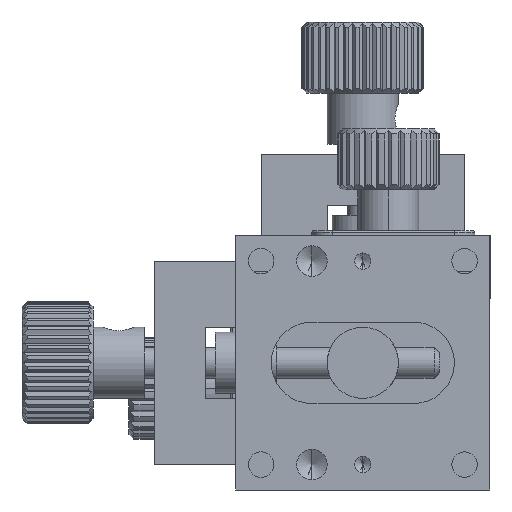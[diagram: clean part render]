
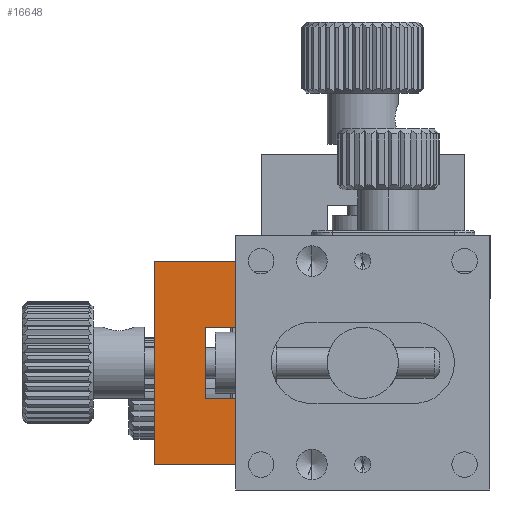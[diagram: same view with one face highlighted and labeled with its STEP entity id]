
A CAD part, front view. The second image highlights one B-rep face of the part: STEP entity #16648.
In plain terms, the highlighted planar face has unit normal (0, -1, 0).
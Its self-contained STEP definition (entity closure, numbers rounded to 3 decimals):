
#49 = DIRECTION ( 'NONE',  ( 0., 0., 1. ) ) ;
#153 = VECTOR ( 'NONE', #15396, 1000. ) ;
#874 = ORIENTED_EDGE ( 'NONE', *, *, #4074, .T. ) ;
#998 = CARTESIAN_POINT ( 'NONE',  ( 8., 0., 10. ) ) ;
#1021 = EDGE_CURVE ( 'NONE', #25637, #8799, #11422, .T. ) ;
#1034 = VECTOR ( 'NONE', #18060, 1000. ) ;
#1173 = CARTESIAN_POINT ( 'NONE',  ( 8., 0., -10. ) ) ;
#1393 = ORIENTED_EDGE ( 'NONE', *, *, #1021, .F. ) ;
#1508 = EDGE_CURVE ( 'NONE', #22659, #6280, #14401, .T. ) ;
#1888 = DIRECTION ( 'NONE',  ( 0., 0., -1. ) ) ;
#2660 = CARTESIAN_POINT ( 'NONE',  ( 5., 0., -3.5 ) ) ;
#2853 = CARTESIAN_POINT ( 'NONE',  ( 0., 0., 10. ) ) ;
#3341 = CARTESIAN_POINT ( 'NONE',  ( 8., 0., -3.5 ) ) ;
#3492 = EDGE_CURVE ( 'NONE', #18824, #6037, #26503, .T. ) ;
#3543 = ORIENTED_EDGE ( 'NONE', *, *, #17232, .T. ) ;
#4074 = EDGE_CURVE ( 'NONE', #25637, #12785, #15256, .T. ) ;
#4228 = PLANE ( 'NONE',  #20069 ) ;
#5916 = DIRECTION ( 'NONE',  ( 1., 0., 0. ) ) ;
#6037 = VERTEX_POINT ( 'NONE', #6780 ) ;
#6087 = CARTESIAN_POINT ( 'NONE',  ( 0., 0., -10. ) ) ;
#6280 = VERTEX_POINT ( 'NONE', #2853 ) ;
#6780 = CARTESIAN_POINT ( 'NONE',  ( 8., 0., -10. ) ) ;
#6943 = CARTESIAN_POINT ( 'NONE',  ( 5., 0., 3.5 ) ) ;
#7645 = VECTOR ( 'NONE', #14422, 1000. ) ;
#7759 = FACE_OUTER_BOUND ( 'NONE', #11943, .T. ) ;
#8061 = LINE ( 'NONE', #14532, #12356 ) ;
#8309 = LINE ( 'NONE', #18431, #7645 ) ;
#8799 = VERTEX_POINT ( 'NONE', #12818 ) ;
#9832 = CARTESIAN_POINT ( 'NONE',  ( 8., 0., 10. ) ) ;
#10032 = VECTOR ( 'NONE', #5916, 1000. ) ;
#10148 = EDGE_CURVE ( 'NONE', #8799, #18824, #26838, .T. ) ;
#11422 = LINE ( 'NONE', #2660, #153 ) ;
#11758 = EDGE_CURVE ( 'NONE', #22659, #12785, #8309, .T. ) ;
#11943 = EDGE_LOOP ( 'NONE', ( #26780, #23114, #1393, #874, #25827, #18104, #3543, #12757 ) ) ;
#12194 = DIRECTION ( 'NONE',  ( 0., 0., -1. ) ) ;
#12289 = VERTEX_POINT ( 'NONE', #6087 ) ;
#12356 = VECTOR ( 'NONE', #1888, 1000. ) ;
#12734 = DIRECTION ( 'NONE',  ( 0., 1., 0. ) ) ;
#12757 = ORIENTED_EDGE ( 'NONE', *, *, #19403, .F. ) ;
#12785 = VERTEX_POINT ( 'NONE', #16461 ) ;
#12818 = CARTESIAN_POINT ( 'NONE',  ( 5., 0., -3.5 ) ) ;
#14401 = LINE ( 'NONE', #9832, #25600 ) ;
#14412 = CARTESIAN_POINT ( 'NONE',  ( 5., 0., -3.5 ) ) ;
#14422 = DIRECTION ( 'NONE',  ( 0., 0., -1. ) ) ;
#14532 = CARTESIAN_POINT ( 'NONE',  ( 0., 0., -10. ) ) ;
#14717 = DIRECTION ( 'NONE',  ( 1., 0., 0. ) ) ;
#15256 = LINE ( 'NONE', #21077, #25813 ) ;
#15396 = DIRECTION ( 'NONE',  ( 0., 0., -1. ) ) ;
#16461 = CARTESIAN_POINT ( 'NONE',  ( 8., 0., 3.5 ) ) ;
#16648 = ADVANCED_FACE ( 'NONE', ( #7759 ), #4228, .F. ) ;
#17232 = EDGE_CURVE ( 'NONE', #6280, #12289, #8061, .T. ) ;
#18060 = DIRECTION ( 'NONE',  ( -1., 0., 0. ) ) ;
#18104 = ORIENTED_EDGE ( 'NONE', *, *, #1508, .T. ) ;
#18431 = CARTESIAN_POINT ( 'NONE',  ( 8., 0., -10. ) ) ;
#18824 = VERTEX_POINT ( 'NONE', #3341 ) ;
#19403 = EDGE_CURVE ( 'NONE', #6037, #12289, #24138, .T. ) ;
#20069 = AXIS2_PLACEMENT_3D ( 'NONE', #25258, #12734, #49 ) ;
#21077 = CARTESIAN_POINT ( 'NONE',  ( 5., 0., 3.5 ) ) ;
#22659 = VERTEX_POINT ( 'NONE', #998 ) ;
#23114 = ORIENTED_EDGE ( 'NONE', *, *, #10148, .F. ) ;
#24138 = LINE ( 'NONE', #1173, #1034 ) ;
#24561 = DIRECTION ( 'NONE',  ( -1., 0., 0. ) ) ;
#24789 = CARTESIAN_POINT ( 'NONE',  ( 8., 0., -10. ) ) ;
#25258 = CARTESIAN_POINT ( 'NONE',  ( 8., 0., -10. ) ) ;
#25600 = VECTOR ( 'NONE', #24561, 1000. ) ;
#25637 = VERTEX_POINT ( 'NONE', #6943 ) ;
#25813 = VECTOR ( 'NONE', #14717, 1000. ) ;
#25827 = ORIENTED_EDGE ( 'NONE', *, *, #11758, .F. ) ;
#25852 = VECTOR ( 'NONE', #12194, 1000. ) ;
#26503 = LINE ( 'NONE', #24789, #25852 ) ;
#26780 = ORIENTED_EDGE ( 'NONE', *, *, #3492, .F. ) ;
#26838 = LINE ( 'NONE', #14412, #10032 ) ;
